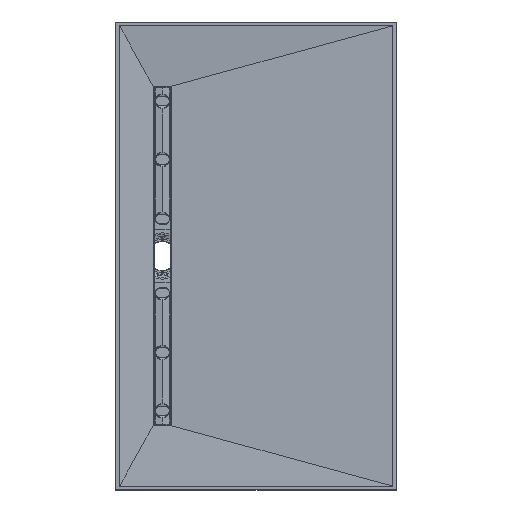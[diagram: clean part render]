
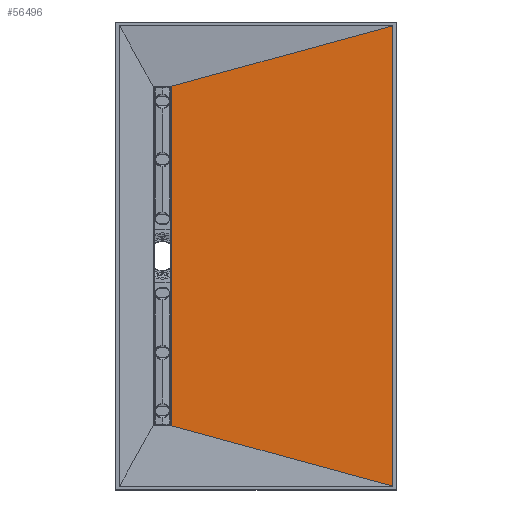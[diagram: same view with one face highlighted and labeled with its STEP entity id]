
A CAD part, top view. The second image highlights one B-rep face of the part: STEP entity #56496.
In plain terms, the highlighted planar face has unit normal (-0.021, 0, 1).
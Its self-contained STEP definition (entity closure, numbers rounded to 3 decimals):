
#6640=PLANE('',#60354);
#7320=FACE_OUTER_BOUND('',#10963,.T.);
#10963=EDGE_LOOP('',(#38463,#38464,#38465,#38466,#38467,#38468,#38469,#38470));
#14674=ELLIPSE('',#60241,6.001,6.);
#14675=ELLIPSE('',#60250,6.001,6.);
#15272=LINE('',#82539,#18562);
#15280=LINE('',#82554,#18570);
#15341=LINE('',#82821,#18631);
#15389=LINE('',#82923,#18679);
#15390=LINE('',#82925,#18680);
#15391=LINE('',#82926,#18681);
#18562=VECTOR('',#66592,10.);
#18570=VECTOR('',#66604,10.);
#18631=VECTOR('',#66841,10.);
#18679=VECTOR('',#66929,10.);
#18680=VECTOR('',#66930,10.);
#18681=VECTOR('',#66931,10.);
#24943=VERTEX_POINT('',#82530);
#24944=VERTEX_POINT('',#82531);
#24946=VERTEX_POINT('',#82538);
#24951=VERTEX_POINT('',#82552);
#24952=VERTEX_POINT('',#82556);
#25066=VERTEX_POINT('',#82809);
#25068=VERTEX_POINT('',#82815);
#25104=VERTEX_POINT('',#82924);
#29804=EDGE_CURVE('',#24943,#24944,#14674,.F.);
#29808=EDGE_CURVE('',#24946,#24943,#15272,.F.);
#29816=EDGE_CURVE('',#24944,#24951,#15280,.T.);
#29820=EDGE_CURVE('',#24946,#24952,#14675,.T.);
#29949=EDGE_CURVE('',#25068,#25066,#15341,.T.);
#30003=EDGE_CURVE('',#25066,#24951,#15389,.T.);
#30004=EDGE_CURVE('',#25068,#25104,#15390,.T.);
#30005=EDGE_CURVE('',#25104,#24952,#15391,.T.);
#38463=ORIENTED_EDGE('',*,*,#29808,.T.);
#38464=ORIENTED_EDGE('',*,*,#29804,.T.);
#38465=ORIENTED_EDGE('',*,*,#29816,.T.);
#38466=ORIENTED_EDGE('',*,*,#30003,.F.);
#38467=ORIENTED_EDGE('',*,*,#29949,.F.);
#38468=ORIENTED_EDGE('',*,*,#30004,.T.);
#38469=ORIENTED_EDGE('',*,*,#30005,.T.);
#38470=ORIENTED_EDGE('',*,*,#29820,.F.);
#56496=ADVANCED_FACE('',(#7320),#6640,.F.);
#60241=AXIS2_PLACEMENT_3D('',#82532,#66583,#66584);
#60250=AXIS2_PLACEMENT_3D('',#82562,#66612,#66613);
#60354=AXIS2_PLACEMENT_3D('',#82922,#66927,#66928);
#66583=DIRECTION('center_axis',(-0.021,0.,
1.));
#66584=DIRECTION('ref_axis',(1.,0.,0.021));
#66592=DIRECTION('',(0.,1.,0.));
#66604=DIRECTION('',(0.,-1.,0.));
#66612=DIRECTION('center_axis',(-0.021,0.,
1.));
#66613=DIRECTION('ref_axis',(1.,0.,0.021));
#66841=DIRECTION('',(0.,-1.,0.));
#66927=DIRECTION('center_axis',(0.021,0.,
-1.));
#66928=DIRECTION('ref_axis',(-1.,0.,-0.021));
#66929=DIRECTION('',(-0.964,0.263,-0.02));
#66930=DIRECTION('',(-0.964,-0.263,-0.02));
#66931=DIRECTION('',(0.,-1.,0.));
#82530=CARTESIAN_POINT('',(-741.5,225.3,-14.993));
#82531=CARTESIAN_POINT('',(-741.85,223.281,-15.));
#82532=CARTESIAN_POINT('Origin',(-747.5,225.3,-15.118));
#82538=CARTESIAN_POINT('',(-741.5,1318.7,-14.993));
#82539=CARTESIAN_POINT('',(-741.5,1323.2,-14.993));
#82552=CARTESIAN_POINT('',(-741.85,219.15,-15.));
#82554=CARTESIAN_POINT('',(-741.85,948.55,-15.));
#82556=CARTESIAN_POINT('',(-741.85,1320.719,-15.));
#82562=CARTESIAN_POINT('Origin',(-747.5,1318.7,-15.118));
#82809=CARTESIAN_POINT('',(-22.7,22.7,0.));
#82815=CARTESIAN_POINT('',(-22.7,1521.3,0.));
#82821=CARTESIAN_POINT('',(-22.7,1146.65,0.));
#82922=CARTESIAN_POINT('Origin',(-22.7,1521.3,0.));
#82923=CARTESIAN_POINT('',(-213.096,74.71,-3.971));
#82924=CARTESIAN_POINT('',(-741.85,1324.85,-15.));
#82925=CARTESIAN_POINT('',(-436.167,1408.353,-8.624));
#82926=CARTESIAN_POINT('',(-741.85,948.55,-15.));
